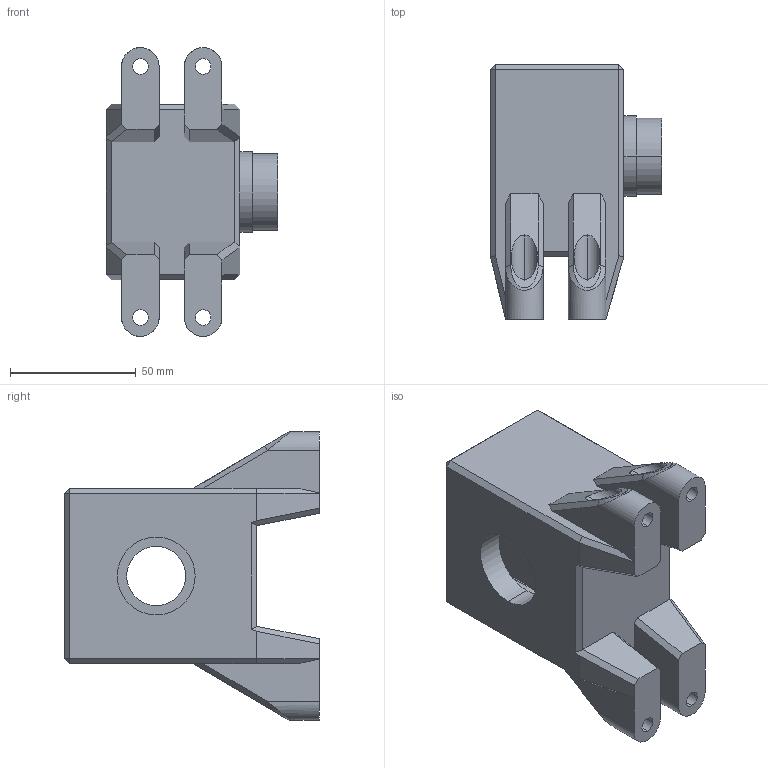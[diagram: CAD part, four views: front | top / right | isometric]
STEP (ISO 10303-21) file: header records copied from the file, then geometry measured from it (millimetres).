
FILE_DESCRIPTION (( 'STEP AP214' ), '1' );
FILE_NAME ('2019_miCube_Lens Block2_Filter Holder Compatible.STEP', '2019-05-27T07:27:59', ( '' ), ( '' ), 'SwSTEP 2.0', 'SolidWorks 2017', '' );
FILE_SCHEMA (( 'AUTOMOTIVE_DESIGN' ));
Length unit declared in the file: millimetre
Products named in the file (1): 2019_miCube_Lens Block2_Filter Holder Compatible
Bounding box: 68.15 x 101.5 x 115 mm (x, y, z)
Volume: 270857.2 mm3; surface area: 55363.4 mm2
Topology: 1 solids, 1 shells, 144 faces, 362 edges, 232 vertices
Faces by surface type: plane 104, cylinder 36, bspline 4
Entity records: 5316 total; most frequent: CARTESIAN_POINT 1825, ORIENTED_EDGE 724, DIRECTION 676, EDGE_CURVE 362, VECTOR 278, LINE 278, VERTEX_POINT 232, AXIS2_PLACEMENT_3D 199
